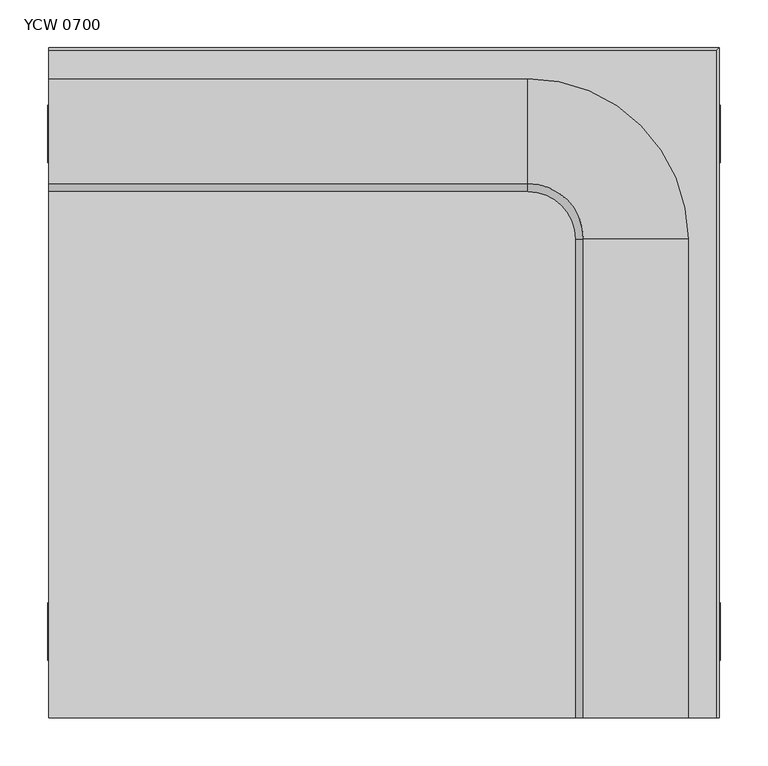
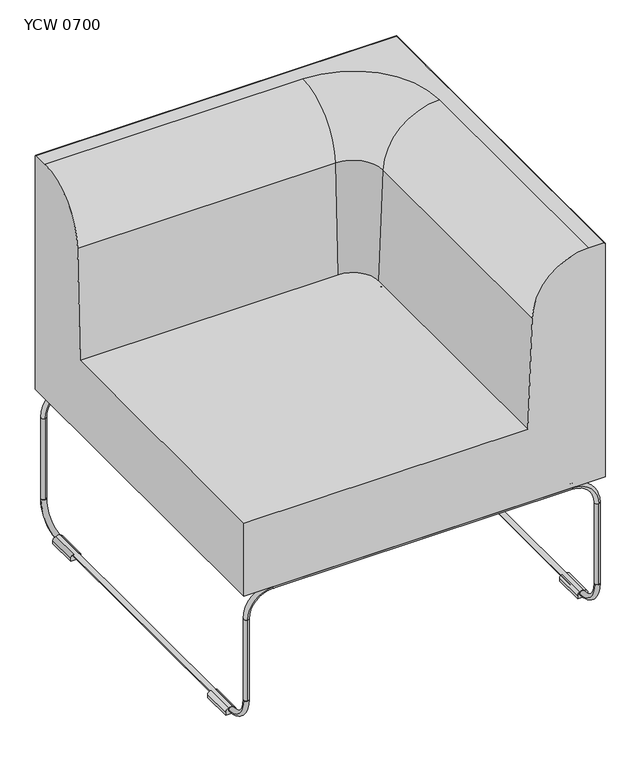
"""IFC4 building model written with IfcOpenShell, lengths in millimetres: furniture geometry, Mobiliário_Mobiliário de Escritório_LinhaYoung_Sofa Canto (Aramado) - YCW_Marelli : YCW 0700."""

import ifcopenshell
import ifcopenshell.guid

model = None  # the IFC model being written
_history = None  # IfcOwnerHistory: only IFC2X3 demands one
_inside = {}  # id of a spatial element -> (the spatial element, [elements in it])
_under = {}  # id of a project, library or spatial element -> (it, [spatial elements below it])
_declared = {}  # id of a project -> (the project, [libraries it declares])
_typed = {}  # id of a type object -> (the type object, [elements of that type])
_made_of = {}  # id of a material, layer set ... -> (it, [elements and type objects made of it])


def new_model(schema):
    """Start an empty IFC model of exactly this schema.

    Asked for "IFC4X3", IfcOpenShell would pick the latest addendum, in which some entities
    have other attributes; the version numbers below select the first issue.
    IFC2X3 requires an IfcOwnerHistory on every rooted entity: one is made here for all.
    """
    global model, _history
    if schema == "IFC4X3":
        model = ifcopenshell.file(schema_version=(4, 3, 0, 0))
    else:
        model = ifcopenshell.file(schema=schema)
    _inside.clear()
    _under.clear()
    _declared.clear()
    _typed.clear()
    _made_of.clear()
    _history = None
    if model.schema == "IFC2X3":
        org = make("IfcOrganization", Name="unknown")
        user = make(
            "IfcPersonAndOrganization",
            ThePerson=make("IfcPerson", FamilyName="unknown"),
            TheOrganization=org,
        )
        app = make(
            "IfcApplication",
            ApplicationDeveloper=org,
            Version="unknown",
            ApplicationFullName="unknown",
            ApplicationIdentifier="unknown",
        )
        _history = make(
            "IfcOwnerHistory",
            OwningUser=user,
            OwningApplication=app,
            ChangeAction="ADDED",
            CreationDate=0,
        )
    return model


def make(cls, **values):
    """One entity of the class cls with the attributes given. An attribute that is None is left unset."""
    return model.create_entity(
        cls, **{name: value for name, value in values.items() if value is not None}
    )


def rooted(cls, **values):
    """An entity with a GlobalId (a new one), such as an element, a storey or a relation."""
    return make(cls, GlobalId=ifcopenshell.guid.new(), OwnerHistory=_history, **values)


def si_unit(unit_type, name, prefix=None):
    """IfcSIUnit, for example si_unit("LENGTHUNIT", "METRE", prefix="MILLI")."""
    return make("IfcSIUnit", UnitType=unit_type, Prefix=prefix, Name=name)


def assignment(units):
    """IfcUnitAssignment: the units of a project."""
    return None if units is None else make("IfcUnitAssignment", Units=units)


def point(xyz):
    """IfcCartesianPoint."""
    return None if xyz is None else make("IfcCartesianPoint", Coordinates=xyz)


def direction(xyz):
    """IfcDirection."""
    return None if xyz is None else make("IfcDirection", DirectionRatios=xyz)


def frame(location, z_axis=None, x_axis=None):
    """IfcAxis2Placement3D, a coordinate frame: its origin and axes. An axis left out is left unset."""
    return make(
        "IfcAxis2Placement3D",
        Location=point(location),
        Axis=direction(z_axis),
        RefDirection=direction(x_axis),
    )


def frame_2d(location, x_axis=None):
    """IfcAxis2Placement2D, a coordinate frame in the plane: its origin and x axis."""
    return make(
        "IfcAxis2Placement2D", Location=point(location), RefDirection=direction(x_axis)
    )


def origin():
    """The frame at (0, 0, 0) with its axes left unset."""
    return frame((0.0, 0.0, 0.0))


def place(relative_to, where):
    """IfcLocalPlacement: puts the frame where relative to a parent placement (None: the world)."""
    return make(
        "IfcLocalPlacement", PlacementRelTo=relative_to, RelativePlacement=where
    )


def context(
    kind, dimensions, precision=None, world=None, true_north=None, identifier=None
):
    """IfcGeometricRepresentationContext, for example the 3D "Model" context."""
    return make(
        "IfcGeometricRepresentationContext",
        ContextIdentifier=identifier,
        ContextType=kind,
        CoordinateSpaceDimension=dimensions,
        Precision=precision,
        WorldCoordinateSystem=world,
        TrueNorth=true_north,
    )


def project(units=None, contexts=None):
    """IfcProject with its units and contexts."""
    return rooted(
        "IfcProject",
        Name="project",
        RepresentationContexts=contexts,
        UnitsInContext=assignment(units),
    )


def spatial(cls, under=None, at=None, **own):
    """A site, building, storey or space (cls), placed at a placement, below another one or the project."""
    s = rooted(cls, ObjectPlacement=at, **own)
    if under is not None:
        _under.setdefault(under.id(), (under, []))[1].append(s)
    return s


def polyline(points):
    """IfcPolyline through the points."""
    return make("IfcPolyline", Points=[point(p) for p in points])


def circle_curve(where, radius):
    """IfcCircle in the frame where."""
    return make("IfcCircle", Position=where, Radius=radius)


def ellipse_curve(where, semi_axis1, semi_axis2):
    """IfcEllipse in the frame where."""
    return make(
        "IfcEllipse", Position=where, SemiAxis1=semi_axis1, SemiAxis2=semi_axis2
    )


def trimmed(basis, trim1, trim2, sense, master):
    """IfcTrimmedCurve: the piece of a basis curve between two trims."""
    return make(
        "IfcTrimmedCurve",
        BasisCurve=basis,
        Trim1=trim1,
        Trim2=trim2,
        SenseAgreement=sense,
        MasterRepresentation=master,
    )


def segment(curve, same_sense, transition):
    """IfcCompositeCurveSegment."""
    return make(
        "IfcCompositeCurveSegment",
        Transition=transition,
        SameSense=same_sense,
        ParentCurve=curve,
    )


def composite_curve(segments, self_intersect=None):
    """IfcCompositeCurve: segments joined end to end."""
    return make("IfcCompositeCurve", Segments=segments, SelfIntersect=self_intersect)


def outline(outer, holes=None, kind="AREA"):
    """IfcArbitraryClosedProfileDef: a profile drawn as a closed curve; with holes, ...WithVoids."""
    if holes is None:
        return make("IfcArbitraryClosedProfileDef", ProfileType=kind, OuterCurve=outer)
    return make(
        "IfcArbitraryProfileDefWithVoids",
        ProfileType=kind,
        OuterCurve=outer,
        InnerCurves=holes,
    )


def extrude(swept, where, along, depth):
    """IfcExtrudedAreaSolid: the profile swept, set in the frame where, extruded along a direction by depth."""
    return make(
        "IfcExtrudedAreaSolid",
        SweptArea=swept,
        Position=where,
        ExtrudedDirection=direction(along),
        Depth=depth,
    )


def shape(context_of_items, identifier, shape_type, items):
    """IfcShapeRepresentation: the items that make up one representation, for example the "Body"."""
    return make(
        "IfcShapeRepresentation",
        ContextOfItems=context_of_items,
        RepresentationIdentifier=identifier,
        RepresentationType=shape_type,
        Items=items,
    )


def source(mapping_origin, context_of_items, identifier, shape_type, items):
    """IfcRepresentationMap: a shape defined once, which mapped items show again and again."""
    return make(
        "IfcRepresentationMap",
        MappingOrigin=mapping_origin,
        MappedRepresentation=shape(context_of_items, identifier, shape_type, items),
    )


def transform(
    local_origin,
    x_axis=None,
    y_axis=None,
    z_axis=None,
    scale=None,
    scale2=None,
    scale3=None,
    uniform=True,
):
    """IfcCartesianTransformationOperator3D, or its non-uniform kind. x_axis, y_axis, z_axis: its Axis1, 2, 3."""
    if uniform:
        return make(
            "IfcCartesianTransformationOperator3D",
            Axis1=direction(x_axis),
            Axis2=direction(y_axis),
            LocalOrigin=point(local_origin),
            Scale=scale,
            Axis3=direction(z_axis),
        )
    return make(
        "IfcCartesianTransformationOperator3DnonUniform",
        Axis1=direction(x_axis),
        Axis2=direction(y_axis),
        LocalOrigin=point(local_origin),
        Scale=scale,
        Axis3=direction(z_axis),
        Scale2=scale2,
        Scale3=scale3,
    )


def mapped(mapping_source, mapping_target):
    """IfcMappedItem: shows the shape of a source again, moved by a transform."""
    return make(
        "IfcMappedItem", MappingSource=mapping_source, MappingTarget=mapping_target
    )


def made_of(thing, what):
    """Note that an element or type object is made of a material, layer set ...; save() writes the relation."""
    if what is not None:
        _made_of.setdefault(what.id(), (what, []))[1].append(thing)
    return thing


def element(
    cls,
    number,
    at=None,
    inside=None,
    cuts=None,
    type_object=None,
    material=None,
    context=None,
    identifier="Body",
    shape_type=None,
    held_by="IfcProductDefinitionShape",
    body=None,
    shapes=None,
    **own,
):
    """One element of the class cls, such as IfcWall. Its Tag is "e" and its number.

    at: its placement. inside: the storey or other place that contains it. cuts: it is an
    opening in that element (IfcRelVoidsElement). A single representation is given by context,
    identifier, shape_type and body (its items); several are given by shapes. held_by: the class
    of the entity that holds the representations. save() writes the other relations.
    """
    e = rooted(cls, Tag="e%d" % number, ObjectPlacement=at, **own)
    if body is not None:
        shapes = [shape(context, identifier, shape_type, body)]
    if shapes is not None:
        e.Representation = make(held_by, Representations=shapes)
    if inside is not None:
        _inside.setdefault(inside.id(), (inside, []))[1].append(e)
    if cuts is not None:
        rooted(
            "IfcRelVoidsElement", RelatingBuildingElement=cuts, RelatedOpeningElement=e
        )
    if type_object is not None:
        _typed.setdefault(type_object.id(), (type_object, []))[1].append(e)
    return made_of(e, material)


def aggregate(whole, parts):
    """IfcRelAggregates: a whole, such as a stair, and the parts it consists of."""
    return rooted("IfcRelAggregates", RelatingObject=whole, RelatedObjects=parts)


def save(model, path):
    """Write the relations noted so far, then the file.

    IfcRelAggregates (storeys below a building ...), IfcRelContainedInSpatialStructure (elements
    in a storey), IfcRelDefinesByType, IfcRelAssociatesMaterial and IfcRelDeclares: one each for
    every whole, place, type object, material and project.
    """
    for whole, parts in _under.values():
        aggregate(whole, parts)
    for where, things in _inside.values():
        rooted(
            "IfcRelContainedInSpatialStructure",
            RelatedElements=things,
            RelatingStructure=where,
        )
    for kind, things in _typed.values():
        rooted("IfcRelDefinesByType", RelatedObjects=things, RelatingType=kind)
    for what, things in _made_of.values():
        rooted("IfcRelAssociatesMaterial", RelatedObjects=things, RelatingMaterial=what)
    for by, libraries in _declared.values():
        rooted("IfcRelDeclares", RelatingContext=by, RelatedDefinitions=libraries)
    model.write(path)


def plane_surface(at):
    """IfcPlane: the flat surface through the origin of the frame at, square to its z axis."""
    return make("IfcPlane", Position=at)


def cylinder_surface(at, radius):
    """IfcCylindricalSurface: all points at the distance radius from the z axis of the frame at."""
    return make("IfcCylindricalSurface", Position=at, Radius=radius)


def revolved_surface(curve, axis_point, axis_direction):
    """IfcSurfaceOfRevolution: the curve turned about the line through axis_point along axis_direction."""
    return make(
        "IfcSurfaceOfRevolution",
        SweptCurve=make("IfcArbitraryOpenProfileDef", ProfileType="CURVE", Curve=curve),
        AxisPosition=make("IfcAxis1Placement", Location=point(axis_point), Axis=direction(axis_direction)),
    )


def advanced_brep(points, edges, surfaces, faces):
    """IfcAdvancedBrep: a solid bounded by faces that lie on surfaces and meet in shared edges.

    An edge is (start, end): straight between two places in points (the first is 0);
    or (start, end, curve); or (start, end, curve, False) where it runs against its curve.
    A face is (place in surfaces, loops), or (place, loops, False) where it looks against
    its surface's normal. A loop lists edges by number (the first is 1), with a minus sign
    where the edge is run from its end to its start. The first loop is the outer one.
    """
    corners = [point(p) for p in points]
    vertices = [make("IfcVertexPoint", VertexGeometry=c) for c in corners]
    made = []
    for start, end, *more in edges:
        made.append(
            make(
                "IfcEdgeCurve",
                EdgeStart=vertices[start],
                EdgeEnd=vertices[end],
                EdgeGeometry=more[0] if more else make("IfcPolyline", Points=[corners[start], corners[end]]),
                SameSense=more[1] if len(more) > 1 else True,
            )
        )
    hull = []
    for where, loops, *sense in faces:
        bounds = []
        for j, loop in enumerate(loops):
            ring = [make("IfcOrientedEdge", EdgeElement=made[abs(k) - 1], Orientation=k > 0) for k in loop]
            bounds.append(
                make(
                    "IfcFaceOuterBound" if j == 0 else "IfcFaceBound",
                    Bound=make("IfcEdgeLoop", EdgeList=ring),
                    Orientation=True,
                )
            )
        hull.append(make("IfcAdvancedFace", Bounds=bounds, FaceSurface=surfaces[where], SameSense=sense[0] if sense else True))
    return make("IfcAdvancedBrep", Outer=make("IfcClosedShell", CfsFaces=hull))


def ycw_0700_7a8f78d2(model_context):
    return source(origin(), model_context, "Body", "SolidModel", [
        advanced_brep(
        [(0.0, 668.0, 760.0), (500.0, 668.0, 760.0), (668.0, 500.0, 760.0), (668.0, 0.0, 760.0), (696.9835797, 0.0, 760.0), (696.9835797, 696.9835797, 760.0), (0.0, 696.9835797, 760.0), (0.0, 700.0, 280.0), (700.0, 700.0, 280.0), (700.0, 0.0, 280.0), (0.0, 0.0, 280.0), (0.0, 700.0, 756.9835797), (700.0, 700.0, 756.9835797), (700.0, 0.0, 756.9835797), (558.2568376, 0.0, 654.223651), (550.0, 0.0, 430.0), (0.0, 0.0, 430.0), (558.2568376, 500.0, 654.223651), (550.0, 500.0, 430.0), (500.0, 558.2568376, 654.223651), (500.0, 550.0, 430.0), (0.0, 550.0, 430.0), (0.0, 558.2568376, 654.223651)],
        [
            (0, 1),
            (1, 2, circle_curve(frame((500.0, 500.0, 760.0), z_axis=(0.0, 0.0, -1.0), x_axis=(1.0, 0.0, 0.0)), 168.0)),
            (2, 3),
            (3, 4),
            (4, 5),
            (5, 6),
            (6, 0),
            (7, 8),
            (8, 9),
            (9, 10),
            (10, 7),
            (7, 11),
            (11, 12),
            (12, 8),
            (12, 13),
            (13, 9),
            (3, 14, circle_curve(frame((668.0, 0.0, 650.1824561), z_axis=(0.0, -1.0, 0.0), x_axis=(1.0, 0.0, 0.0)), 109.8175439)),
            (14, 15),
            (15, 16),
            (16, 10),
            (13, 4, circle_curve(frame((696.9835797, 0.0, 756.9835797), z_axis=(0.0, -1.0, 0.0), x_axis=(1.0, 0.0, 0.0)), 3.0164203)),
            (2, 17, circle_curve(frame((668.0, 500.0, 650.1824561), z_axis=(0.0, -1.0, 0.0), x_axis=(1.0, 0.0, 0.0)), 109.8175439)),
            (17, 14),
            (17, 18),
            (18, 15),
            (1, 19, circle_curve(frame((500.0, 668.0, 650.1824561), z_axis=(1.0, 0.0, 0.0), x_axis=(0.0, 1.0, 0.0)), 109.8175439)),
            (19, 17, circle_curve(frame((500.0, 500.0, 654.223651), z_axis=(0.0, 0.0, -1.0), x_axis=(1.0, 0.0, 0.0)), 58.2568376)),
            (19, 20),
            (20, 18, circle_curve(frame((500.0, 500.0, 430.0), z_axis=(0.0, 0.0, -1.0), x_axis=(1.0, 0.0, 0.0)), 50.0)),
            (16, 21),
            (21, 22),
            (22, 0, circle_curve(frame((0.0, 668.0, 650.1824561), z_axis=(-1.0, 0.0, 0.0), x_axis=(0.0, 1.0, 0.0)), 109.8175439)),
            (6, 11, circle_curve(frame((0.0, 696.9835797, 756.9835797), z_axis=(-1.0, 0.0, 0.0), x_axis=(0.0, 1.0, 0.0)), 3.0164203)),
            (22, 19),
            (21, 20),
            (12, 5, ellipse_curve(frame((696.9835797, 696.9835797, 756.9835797), z_axis=(0.7071067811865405, -0.7071067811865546, 0.0), x_axis=(0.7071067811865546, 0.7071067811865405, 0.0)), 4.2658626, 3.0164203)),
        ],
        [
            plane_surface(frame((500.0, 700.0, 760.0), z_axis=(0.0, 0.0, 1.0), x_axis=(-1.0, 0.0, 0.0))),
            plane_surface(frame((500.0, 700.0, 280.0), z_axis=(0.0, 0.0, -1.0), x_axis=(1.0, 0.0, 0.0))),
            plane_surface(frame((700.0, 700.0, 760.0), z_axis=(0.0, 1.0, 0.0), x_axis=(0.0, 0.0, -1.0))),
            plane_surface(frame((700.0, 500.0, 760.0), z_axis=(1.0, 0.0, 0.0), x_axis=(0.0, 0.0, -1.0))),
            plane_surface(frame((550.0, 0.0, 0.0), z_axis=(0.0, -1.0, 0.0), x_axis=(0.0, 0.0, 1.0))),
            cylinder_surface(frame((668.0, 0.0, 650.1824561), z_axis=(0.0, -1.0, 0.0), x_axis=(1.0, 0.0, 0.0)), 109.8175439),
            plane_surface(frame((558.2568376, 0.0, 654.223651), z_axis=(-0.9993226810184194, 0.0, 0.036799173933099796), x_axis=(0.0, 1.0, 0.0))),
            revolved_surface(trimmed(ellipse_curve(frame((668.0, 500.0, 650.1824561), z_axis=(0.0, -1.0, 0.0), x_axis=(1.0, 0.0, 0.0)), 109.8175439, 109.8175439), [point((668.0, 500.0, 760.0))], [point((558.2568376, 500.0, 654.223651))], True, "CARTESIAN"), (500.0, 500.0, 0.0), (0.0, 0.0, 1.0)),
            revolved_surface(polyline([(558.2568376, 500.0, 654.223651), (550.0, 500.0, 430.0)]), (500.0, 500.0, 0.0), (0.0, 0.0, 1.0)),
            plane_surface(frame((0.0, 550.0, 0.0), z_axis=(-1.0, 0.0, 0.0), x_axis=(0.0, 0.0, 1.0))),
            cylinder_surface(frame((500.0, 668.0, 650.1824561), z_axis=(1.0, 0.0, 0.0), x_axis=(0.0, 1.0, 0.0)), 109.8175439),
            plane_surface(frame((500.0, 558.2568376, 654.223651), z_axis=(0.0, -0.9993226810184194, 0.036799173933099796), x_axis=(-1.0, 0.0, 0.0))),
            cylinder_surface(frame((696.9835797, 700.0, 756.9835797), z_axis=(0.0, 1.0, 0.0), x_axis=(1.0, 0.0, 0.0)), 3.0164203),
            cylinder_surface(frame((700.0, 696.9835797, 756.9835797), z_axis=(1.0, 0.0, 0.0), x_axis=(0.0, 1.0, 0.0)), 3.0164203),
            plane_surface(frame((0.0, 550.0, 430.0), z_axis=(0.0, 0.0, 1.0), x_axis=(-1.0, 0.0, 0.0))),
        ],
        [
            (0, [[1, 2, 3, 4, 5, 6, 7]]),
            (1, [[8, 9, 10, 11]]),
            (2, [[-8, 12, 13, 14]]),
            (3, [[-9, -14, 15, 16]]),
            (4, [[17, 18, 19, 20, -10, -16, 21, -4]]),
            (5, [[-17, -3, 22, 23]]),
            (6, [[-18, -23, 24, 25]]),
            (7, [[-2, 26, 27, -22]]),
            (8, [[-24, -27, 28, 29]]),
            (9, [[-11, -20, 30, 31, 32, -7, 33, -12]]),
            (10, [[-1, -32, 34, -26]]),
            (11, [[-28, -34, -31, 35]]),
            (12, [[-15, 36, -5, -21]]),
            (13, [[-6, -36, -13, -33]]),
            (14, [[-30, -19, -25, -29, -35]]),
        ],
    ),
        extrude(outline(composite_curve([segment(trimmed(circle_curve(frame_2d((9.0, 10.0)), 5.0), [point((9.0, 5.0))], [point((9.0, 15.0))], False, "CARTESIAN"), True, "CONTINUOUS"), segment(trimmed(circle_curve(frame_2d((9.0, 10.0)), 5.0), [point((9.0, 15.0))], [point((9.0, 5.0))], False, "CARTESIAN"), True, "CONTINUOUS")], self_intersect=False)), frame((0.0, 60.0, 0.0), z_axis=(0.0, 1.0, 0.0), x_axis=(0.0, 0.0, 1.0)), (0.0, 0.0, 1.0), 580.0),
        extrude(outline(composite_curve([segment(trimmed(circle_curve(frame_2d((9.0, 690.0)), 5.0), [point((9.0, 695.0))], [point((9.0, 685.0))], False, "CARTESIAN"), True, "CONTINUOUS"), segment(trimmed(circle_curve(frame_2d((9.0, 690.0)), 5.0), [point((9.0, 685.0))], [point((9.0, 695.0))], False, "CARTESIAN"), True, "CONTINUOUS")], self_intersect=False)), frame((0.0, 60.0, 0.0), z_axis=(0.0, 1.0, 0.0), x_axis=(0.0, 0.0, 1.0)), (0.0, 0.0, 1.0), 580.0),
        extrude(outline(composite_curve([segment(trimmed(circle_curve(frame_2d((10.0, 275.0)), 5.0), [point((5.0, 275.0))], [point((15.0, 275.0))], False, "CARTESIAN"), True, "CONTINUOUS"), segment(trimmed(circle_curve(frame_2d((10.0, 275.0)), 5.0), [point((15.0, 275.0))], [point((5.0, 275.0))], False, "CARTESIAN"), True, "CONTINUOUS")], self_intersect=False)), frame((60.0, 0.0, 0.0), z_axis=(1.0, 0.0, 0.0), x_axis=(0.0, 1.0, 0.0)), (0.0, 0.0, 1.0), 580.0),
        extrude(outline(composite_curve([segment(trimmed(circle_curve(frame_2d((690.0, 275.0)), 5.0), [point((695.0, 275.0))], [point((685.0, 275.0))], False, "CARTESIAN"), True, "CONTINUOUS"), segment(trimmed(circle_curve(frame_2d((690.0, 275.0)), 5.0), [point((685.0, 275.0))], [point((695.0, 275.0))], False, "CARTESIAN"), True, "CONTINUOUS")], self_intersect=False)), frame((60.0, 0.0, 0.0), z_axis=(1.0, 0.0, 0.0), x_axis=(0.0, 1.0, 0.0)), (0.0, 0.0, 1.0), 580.0),
        advanced_brep(
        [(10.0, 15.0, 225.0), (10.0, 5.0, 225.0), (60.0, 15.0, 275.0), (60.0, 5.0, 275.0)],
        [
            (0, 1, circle_curve(frame((10.0, 10.0, 225.0), z_axis=(0.0, 0.0, -1.0), x_axis=(0.0, -1.0, 0.0)), 5.0)),
            (1, 0, circle_curve(frame((10.0, 10.0, 225.0), z_axis=(0.0, 0.0, -1.0), x_axis=(0.0, -1.0, 0.0)), 5.0)),
            (2, 3, circle_curve(frame((60.0, 10.0, 275.0), z_axis=(1.0, 0.0, 0.0), x_axis=(0.0, -1.0, 0.0)), 5.0)),
            (3, 2, circle_curve(frame((60.0, 10.0, 275.0), z_axis=(1.0, 0.0, 0.0), x_axis=(0.0, -1.0, 0.0)), 5.0)),
            (3, 1, circle_curve(frame((60.0, 5.0, 225.0), z_axis=(0.0, -1.0, 0.0), x_axis=(-1.0, 0.0, 0.0)), 50.0)),
            (0, 2, circle_curve(frame((60.0, 15.0, 225.0), z_axis=(0.0, 1.0, 0.0), x_axis=(-1.0, 0.0, 0.0)), 50.0)),
        ],
        [
            plane_surface(frame((10.0, 0.0, 225.0), z_axis=(0.0, 0.0, -1.0), x_axis=(0.0, -1.0, 0.0))),
            plane_surface(frame((60.0, 0.0, 275.0), z_axis=(1.0, 0.0, 0.0), x_axis=(0.0, -1.0, 0.0))),
            revolved_surface(trimmed(ellipse_curve(frame((10.0, 10.0, 225.0), z_axis=(0.0, 0.0, -1.0), x_axis=(0.0, -1.0, 0.0)), 5.0, 5.0), [point((10.0, 15.0, 225.0))], [point((10.0, 5.0, 225.0))], True, "CARTESIAN"), (60.0, 0.0, 225.0), (0.0, 1.0, 0.0)),
            revolved_surface(trimmed(ellipse_curve(frame((10.0, 10.0, 225.0), z_axis=(0.0, 0.0, -1.0), x_axis=(0.0, -1.0, 0.0)), 5.0, 5.0), [point((10.0, 5.0, 225.0))], [point((10.0, 15.0, 225.0))], True, "CARTESIAN"), (60.0, 0.0, 225.0), (0.0, 1.0, 0.0)),
        ],
        [
            (0, [[1, 2]]),
            (1, [[3, 4]]),
            (2, [[5, -1, 6, -4]]),
            (3, [[-6, -2, -5, -3]]),
        ],
    ),
        advanced_brep(
        [(690.0, 15.0, 225.0), (690.0, 5.0, 225.0), (640.0, 15.0, 275.0), (640.0, 5.0, 275.0)],
        [
            (0, 1, circle_curve(frame((690.0, 10.0, 225.0), z_axis=(0.0, 0.0, -1.0), x_axis=(0.0, -1.0, 0.0)), 5.0)),
            (1, 0, circle_curve(frame((690.0, 10.0, 225.0), z_axis=(0.0, 0.0, -1.0), x_axis=(0.0, -1.0, 0.0)), 5.0)),
            (2, 3, circle_curve(frame((640.0, 10.0, 275.0), z_axis=(-1.0, 0.0, 0.0), x_axis=(0.0, -1.0, 0.0)), 5.0)),
            (3, 2, circle_curve(frame((640.0, 10.0, 275.0), z_axis=(-1.0, 0.0, 0.0), x_axis=(0.0, -1.0, 0.0)), 5.0)),
            (2, 0, circle_curve(frame((640.0, 15.0, 225.0), z_axis=(0.0, 1.0, 0.0), x_axis=(1.0, 0.0, 0.0)), 50.0)),
            (1, 3, circle_curve(frame((640.0, 5.0, 225.0), z_axis=(0.0, -1.0, 0.0), x_axis=(1.0, 0.0, 0.0)), 50.0)),
        ],
        [
            plane_surface(frame((690.0, 0.0, 225.0), z_axis=(0.0, 0.0, -1.0), x_axis=(0.0, -1.0, 0.0))),
            plane_surface(frame((640.0, 0.0, 275.0), z_axis=(-1.0, 0.0, 0.0), x_axis=(0.0, -1.0, 0.0))),
            revolved_surface(trimmed(ellipse_curve(frame((690.0, 10.0, 225.0), z_axis=(0.0, 0.0, -1.0), x_axis=(0.0, -1.0, 0.0)), 5.0, 5.0), [point((690.0, 5.0, 225.0))], [point((690.0, 15.0, 225.0))], True, "CARTESIAN"), (640.0, 0.0, 225.0), (0.0, -1.0, 0.0)),
            revolved_surface(trimmed(ellipse_curve(frame((690.0, 10.0, 225.0), z_axis=(0.0, 0.0, -1.0), x_axis=(0.0, -1.0, 0.0)), 5.0, 5.0), [point((690.0, 15.0, 225.0))], [point((690.0, 5.0, 225.0))], True, "CARTESIAN"), (640.0, 0.0, 225.0), (0.0, -1.0, 0.0)),
        ],
        [
            (0, [[1, 2]]),
            (1, [[3, 4]]),
            (2, [[5, -2, 6, -3]]),
            (3, [[-6, -1, -5, -4]]),
        ],
    ),
        advanced_brep(
        [(10.0, 685.0, 225.0), (10.0, 695.0, 225.0), (60.0, 685.0, 275.0), (60.0, 695.0, 275.0)],
        [
            (0, 1, circle_curve(frame((10.0, 690.0, 225.0), z_axis=(0.0, 0.0, -1.0), x_axis=(0.0, 1.0, 0.0)), 5.0)),
            (1, 0, circle_curve(frame((10.0, 690.0, 225.0), z_axis=(0.0, 0.0, -1.0), x_axis=(0.0, 1.0, 0.0)), 5.0)),
            (2, 3, circle_curve(frame((60.0, 690.0, 275.0), z_axis=(1.0, 0.0, 0.0), x_axis=(0.0, 1.0, 0.0)), 5.0)),
            (3, 2, circle_curve(frame((60.0, 690.0, 275.0), z_axis=(1.0, 0.0, 0.0), x_axis=(0.0, 1.0, 0.0)), 5.0)),
            (2, 0, circle_curve(frame((60.0, 685.0, 225.0), z_axis=(0.0, -1.0, 0.0), x_axis=(-1.0, 0.0, 0.0)), 50.0)),
            (1, 3, circle_curve(frame((60.0, 695.0, 225.0), z_axis=(0.0, 1.0, 0.0), x_axis=(-1.0, 0.0, 0.0)), 50.0)),
        ],
        [
            plane_surface(frame((10.0, 700.0, 225.0), z_axis=(0.0, 0.0, -1.0), x_axis=(0.0, 1.0, 0.0))),
            plane_surface(frame((60.0, 700.0, 275.0), z_axis=(1.0, 0.0, 0.0), x_axis=(0.0, 1.0, 0.0))),
            revolved_surface(trimmed(ellipse_curve(frame((10.0, 690.0, 225.0), z_axis=(0.0, 0.0, -1.0), x_axis=(0.0, 1.0, 0.0)), 5.0, 5.0), [point((10.0, 695.0, 225.0))], [point((10.0, 685.0, 225.0))], True, "CARTESIAN"), (60.0, 700.0, 225.0), (0.0, 1.0, 0.0)),
            revolved_surface(trimmed(ellipse_curve(frame((10.0, 690.0, 225.0), z_axis=(0.0, 0.0, -1.0), x_axis=(0.0, 1.0, 0.0)), 5.0, 5.0), [point((10.0, 685.0, 225.0))], [point((10.0, 695.0, 225.0))], True, "CARTESIAN"), (60.0, 700.0, 225.0), (0.0, 1.0, 0.0)),
        ],
        [
            (0, [[1, 2]]),
            (1, [[3, 4]]),
            (2, [[5, -2, 6, -3]]),
            (3, [[-6, -1, -5, -4]]),
        ],
    ),
        advanced_brep(
        [(690.0, 685.0, 225.0), (690.0, 695.0, 225.0), (640.0, 685.0, 275.0), (640.0, 695.0, 275.0)],
        [
            (0, 1, circle_curve(frame((690.0, 690.0, 225.0), z_axis=(0.0, 0.0, -1.0), x_axis=(0.0, 1.0, 0.0)), 5.0)),
            (1, 0, circle_curve(frame((690.0, 690.0, 225.0), z_axis=(0.0, 0.0, -1.0), x_axis=(0.0, 1.0, 0.0)), 5.0)),
            (2, 3, circle_curve(frame((640.0, 690.0, 275.0), z_axis=(-1.0, 0.0, 0.0), x_axis=(0.0, 1.0, 0.0)), 5.0)),
            (3, 2, circle_curve(frame((640.0, 690.0, 275.0), z_axis=(-1.0, 0.0, 0.0), x_axis=(0.0, 1.0, 0.0)), 5.0)),
            (3, 1, circle_curve(frame((640.0, 695.0, 225.0), z_axis=(0.0, 1.0, 0.0), x_axis=(1.0, 0.0, 0.0)), 50.0)),
            (0, 2, circle_curve(frame((640.0, 685.0, 225.0), z_axis=(0.0, -1.0, 0.0), x_axis=(1.0, 0.0, 0.0)), 50.0)),
        ],
        [
            plane_surface(frame((690.0, 700.0, 225.0), z_axis=(0.0, 0.0, -1.0), x_axis=(0.0, 1.0, 0.0))),
            plane_surface(frame((640.0, 700.0, 275.0), z_axis=(-1.0, 0.0, 0.0), x_axis=(0.0, 1.0, 0.0))),
            revolved_surface(trimmed(ellipse_curve(frame((690.0, 690.0, 225.0), z_axis=(0.0, 0.0, -1.0), x_axis=(0.0, 1.0, 0.0)), 5.0, 5.0), [point((690.0, 685.0, 225.0))], [point((690.0, 695.0, 225.0))], True, "CARTESIAN"), (640.0, 700.0, 225.0), (0.0, -1.0, 0.0)),
            revolved_surface(trimmed(ellipse_curve(frame((690.0, 690.0, 225.0), z_axis=(0.0, 0.0, -1.0), x_axis=(0.0, 1.0, 0.0)), 5.0, 5.0), [point((690.0, 695.0, 225.0))], [point((690.0, 685.0, 225.0))], True, "CARTESIAN"), (640.0, 700.0, 225.0), (0.0, -1.0, 0.0)),
        ],
        [
            (0, [[1, 2]]),
            (1, [[3, 4]]),
            (2, [[5, -1, 6, -4]]),
            (3, [[-6, -2, -5, -3]]),
        ],
    ),
        advanced_brep(
        [(695.0, 690.0, 59.0), (685.0, 690.0, 59.0), (695.0, 640.0, 9.0), (685.0, 640.0, 9.0)],
        [
            (0, 1, circle_curve(frame((690.0, 690.0, 59.0), z_axis=(0.0, 0.0, 1.0), x_axis=(-1.0, 0.0, 0.0)), 5.0)),
            (1, 0, circle_curve(frame((690.0, 690.0, 59.0), z_axis=(0.0, 0.0, 1.0), x_axis=(-1.0, 0.0, 0.0)), 5.0)),
            (2, 3, circle_curve(frame((690.0, 640.0, 9.0), z_axis=(0.0, -1.0, 0.0), x_axis=(-1.0, 0.0, 0.0)), 5.0)),
            (3, 2, circle_curve(frame((690.0, 640.0, 9.0), z_axis=(0.0, -1.0, 0.0), x_axis=(-1.0, 0.0, 0.0)), 5.0)),
            (2, 0, circle_curve(frame((695.0, 640.0, 59.0), z_axis=(1.0, 0.0, 0.0), x_axis=(0.0, 1.0, 0.0)), 50.0)),
            (1, 3, circle_curve(frame((685.0, 640.0, 59.0), z_axis=(-1.0, 0.0, 0.0), x_axis=(0.0, 1.0, 0.0)), 50.0)),
        ],
        [
            plane_surface(frame((680.0, 690.0, 59.0), z_axis=(0.0, 0.0, 1.0), x_axis=(-1.0, 0.0, 0.0))),
            plane_surface(frame((680.0, 640.0, 9.0), z_axis=(0.0, -1.0, 0.0), x_axis=(-1.0, 0.0, 0.0))),
            revolved_surface(trimmed(ellipse_curve(frame((690.0, 690.0, 59.0), z_axis=(0.0, 0.0, 1.0), x_axis=(-1.0, 0.0, 0.0)), 5.0, 5.0), [point((685.0, 690.0, 59.0))], [point((695.0, 690.0, 59.0))], True, "CARTESIAN"), (680.0, 640.0, 59.0), (-1.0, 0.0, 0.0)),
            revolved_surface(trimmed(ellipse_curve(frame((690.0, 690.0, 59.0), z_axis=(0.0, 0.0, 1.0), x_axis=(-1.0, 0.0, 0.0)), 5.0, 5.0), [point((695.0, 690.0, 59.0))], [point((685.0, 690.0, 59.0))], True, "CARTESIAN"), (680.0, 640.0, 59.0), (-1.0, 0.0, 0.0)),
        ],
        [
            (0, [[1, 2]]),
            (1, [[3, 4]]),
            (2, [[5, -2, 6, -3]]),
            (3, [[-6, -1, -5, -4]]),
        ],
    ),
        advanced_brep(
        [(5.0, 690.0, 59.0), (15.0, 690.0, 59.0), (5.0, 640.0, 9.0), (15.0, 640.0, 9.0)],
        [
            (0, 1, circle_curve(frame((10.0, 690.0, 59.0), z_axis=(0.0, 0.0, 1.0), x_axis=(1.0, 0.0, 0.0)), 5.0)),
            (1, 0, circle_curve(frame((10.0, 690.0, 59.0), z_axis=(0.0, 0.0, 1.0), x_axis=(1.0, 0.0, 0.0)), 5.0)),
            (2, 3, circle_curve(frame((10.0, 640.0, 9.0), z_axis=(0.0, -1.0, 0.0), x_axis=(1.0, 0.0, 0.0)), 5.0)),
            (3, 2, circle_curve(frame((10.0, 640.0, 9.0), z_axis=(0.0, -1.0, 0.0), x_axis=(1.0, 0.0, 0.0)), 5.0)),
            (3, 1, circle_curve(frame((15.0, 640.0, 59.0), z_axis=(1.0, 0.0, 0.0), x_axis=(0.0, 1.0, 0.0)), 50.0)),
            (0, 2, circle_curve(frame((5.0, 640.0, 59.0), z_axis=(-1.0, 0.0, 0.0), x_axis=(0.0, 1.0, 0.0)), 50.0)),
        ],
        [
            plane_surface(frame((20.0, 690.0, 59.0), z_axis=(0.0, 0.0, 1.0), x_axis=(1.0, 0.0, 0.0))),
            plane_surface(frame((20.0, 640.0, 9.0), z_axis=(0.0, -1.0, 0.0), x_axis=(1.0, 0.0, 0.0))),
            revolved_surface(trimmed(ellipse_curve(frame((10.0, 690.0, 59.0), z_axis=(0.0, 0.0, 1.0), x_axis=(1.0, 0.0, 0.0)), 5.0, 5.0), [point((5.0, 690.0, 59.0))], [point((15.0, 690.0, 59.0))], True, "CARTESIAN"), (20.0, 640.0, 59.0), (-1.0, 0.0, 0.0)),
            revolved_surface(trimmed(ellipse_curve(frame((10.0, 690.0, 59.0), z_axis=(0.0, 0.0, 1.0), x_axis=(1.0, 0.0, 0.0)), 5.0, 5.0), [point((15.0, 690.0, 59.0))], [point((5.0, 690.0, 59.0))], True, "CARTESIAN"), (20.0, 640.0, 59.0), (-1.0, 0.0, 0.0)),
        ],
        [
            (0, [[1, 2]]),
            (1, [[3, 4]]),
            (2, [[5, -1, 6, -4]]),
            (3, [[-6, -2, -5, -3]]),
        ],
    ),
        advanced_brep(
        [(695.0, 10.0, 59.0), (685.0, 10.0, 59.0), (695.0, 60.0, 9.0), (685.0, 60.0, 9.0)],
        [
            (0, 1, circle_curve(frame((690.0, 10.0, 59.0), z_axis=(0.0, 0.0, 1.0), x_axis=(-1.0, 0.0, 0.0)), 5.0)),
            (1, 0, circle_curve(frame((690.0, 10.0, 59.0), z_axis=(0.0, 0.0, 1.0), x_axis=(-1.0, 0.0, 0.0)), 5.0)),
            (2, 3, circle_curve(frame((690.0, 60.0, 9.0), z_axis=(0.0, 1.0, 0.0), x_axis=(-1.0, 0.0, 0.0)), 5.0)),
            (3, 2, circle_curve(frame((690.0, 60.0, 9.0), z_axis=(0.0, 1.0, 0.0), x_axis=(-1.0, 0.0, 0.0)), 5.0)),
            (3, 1, circle_curve(frame((685.0, 60.0, 59.0), z_axis=(-1.0, 0.0, 0.0), x_axis=(0.0, -1.0, 0.0)), 50.0)),
            (0, 2, circle_curve(frame((695.0, 60.0, 59.0), z_axis=(1.0, 0.0, 0.0), x_axis=(0.0, -1.0, 0.0)), 50.0)),
        ],
        [
            plane_surface(frame((680.0, 10.0, 59.0), z_axis=(0.0, 0.0, 1.0), x_axis=(-1.0, 0.0, 0.0))),
            plane_surface(frame((680.0, 60.0, 9.0), z_axis=(0.0, 1.0, 0.0), x_axis=(-1.0, 0.0, 0.0))),
            revolved_surface(trimmed(ellipse_curve(frame((690.0, 10.0, 59.0), z_axis=(0.0, 0.0, 1.0), x_axis=(-1.0, 0.0, 0.0)), 5.0, 5.0), [point((695.0, 10.0, 59.0))], [point((685.0, 10.0, 59.0))], True, "CARTESIAN"), (680.0, 60.0, 59.0), (1.0, 0.0, 0.0)),
            revolved_surface(trimmed(ellipse_curve(frame((690.0, 10.0, 59.0), z_axis=(0.0, 0.0, 1.0), x_axis=(-1.0, 0.0, 0.0)), 5.0, 5.0), [point((685.0, 10.0, 59.0))], [point((695.0, 10.0, 59.0))], True, "CARTESIAN"), (680.0, 60.0, 59.0), (1.0, 0.0, 0.0)),
        ],
        [
            (0, [[1, 2]]),
            (1, [[3, 4]]),
            (2, [[5, -1, 6, -4]]),
            (3, [[-6, -2, -5, -3]]),
        ],
    ),
        advanced_brep(
        [(5.0, 10.0, 59.0), (15.0, 10.0, 59.0), (5.0, 60.0, 9.0), (15.0, 60.0, 9.0)],
        [
            (0, 1, circle_curve(frame((10.0, 10.0, 59.0), z_axis=(0.0, 0.0, 1.0), x_axis=(1.0, 0.0, 0.0)), 5.0)),
            (1, 0, circle_curve(frame((10.0, 10.0, 59.0), z_axis=(0.0, 0.0, 1.0), x_axis=(1.0, 0.0, 0.0)), 5.0)),
            (2, 3, circle_curve(frame((10.0, 60.0, 9.0), z_axis=(0.0, 1.0, 0.0), x_axis=(1.0, 0.0, 0.0)), 5.0)),
            (3, 2, circle_curve(frame((10.0, 60.0, 9.0), z_axis=(0.0, 1.0, 0.0), x_axis=(1.0, 0.0, 0.0)), 5.0)),
            (2, 0, circle_curve(frame((5.0, 60.0, 59.0), z_axis=(-1.0, 0.0, 0.0), x_axis=(0.0, -1.0, 0.0)), 50.0)),
            (1, 3, circle_curve(frame((15.0, 60.0, 59.0), z_axis=(1.0, 0.0, 0.0), x_axis=(0.0, -1.0, 0.0)), 50.0)),
        ],
        [
            plane_surface(frame((20.0, 10.0, 59.0), z_axis=(0.0, 0.0, 1.0), x_axis=(1.0, 0.0, 0.0))),
            plane_surface(frame((20.0, 60.0, 9.0), z_axis=(0.0, 1.0, 0.0), x_axis=(1.0, 0.0, 0.0))),
            revolved_surface(trimmed(ellipse_curve(frame((10.0, 10.0, 59.0), z_axis=(0.0, 0.0, 1.0), x_axis=(1.0, 0.0, 0.0)), 5.0, 5.0), [point((15.0, 10.0, 59.0))], [point((5.0, 10.0, 59.0))], True, "CARTESIAN"), (20.0, 60.0, 59.0), (1.0, 0.0, 0.0)),
            revolved_surface(trimmed(ellipse_curve(frame((10.0, 10.0, 59.0), z_axis=(0.0, 0.0, 1.0), x_axis=(1.0, 0.0, 0.0)), 5.0, 5.0), [point((5.0, 10.0, 59.0))], [point((15.0, 10.0, 59.0))], True, "CARTESIAN"), (20.0, 60.0, 59.0), (1.0, 0.0, 0.0)),
        ],
        [
            (0, [[1, 2]]),
            (1, [[3, 4]]),
            (2, [[5, -2, 6, -3]]),
            (3, [[-6, -1, -5, -4]]),
        ],
    ),
        extrude(outline(composite_curve([segment(trimmed(circle_curve(frame_2d((275.0, 75.0)), 5.0), [point((275.0, 70.0))], [point((275.0, 80.0))], False, "CARTESIAN"), True, "CONTINUOUS"), segment(trimmed(circle_curve(frame_2d((275.0, 75.0)), 5.0), [point((275.0, 80.0))], [point((275.0, 70.0))], False, "CARTESIAN"), True, "CONTINUOUS")], self_intersect=False)), frame((0.0, 10.0, 0.0), z_axis=(0.0, 1.0, 0.0), x_axis=(0.0, 0.0, 1.0)), (0.0, 0.0, 1.0), 680.0),
        extrude(outline(composite_curve([segment(trimmed(circle_curve(frame_2d((275.0, 625.0)), 5.0), [point((275.0, 630.0))], [point((275.0, 620.0))], False, "CARTESIAN"), True, "CONTINUOUS"), segment(trimmed(circle_curve(frame_2d((275.0, 625.0)), 5.0), [point((275.0, 620.0))], [point((275.0, 630.0))], False, "CARTESIAN"), True, "CONTINUOUS")], self_intersect=False)), frame((0.0, 10.0, 0.0), z_axis=(0.0, 1.0, 0.0), x_axis=(0.0, 0.0, 1.0)), (0.0, 0.0, 1.0), 680.0),
        extrude(outline(composite_curve([segment(polyline([(0.0, 19.0127166), (6.0, 19.0127166)]), True, "CONTINUOUS"), segment(trimmed(circle_curve(frame_2d((6.0, 13.0127166)), 6.0), [point((6.0, 19.0127166))], [point((11.9041735, 14.0807687))], False, "CARTESIAN"), True, "CONTINUOUS"), segment(trimmed(circle_curve(frame_2d((8.9971213, 10.0127166)), 5.0), [point((11.9041735, 14.0807687))], [point((11.9248285, 5.9595042))], True, "CARTESIAN"), True, "CONTINUOUS"), segment(trimmed(circle_curve(frame_2d((6.0, 5.0127166)), 6.0), [point((11.9248285, 5.9595042))], [point((6.0, -0.9872834))], False, "CARTESIAN"), True, "CONTINUOUS"), segment(polyline([(6.0, -0.9872834), (0.0, -0.9872834), (0.0, 19.0127166)]), True, "CONTINUOUS")], self_intersect=False)), frame((0.0, 60.0, 0.0), z_axis=(0.0, 1.0, 0.0), x_axis=(0.0, 0.0, 1.0)), (0.0, 0.0, 1.0), 60.0),
        extrude(outline(composite_curve([segment(polyline([(0.0, 680.9872834), (0.0, 700.9872834), (6.0, 700.9872834)]), True, "CONTINUOUS"), segment(trimmed(circle_curve(frame_2d((6.0, 694.9872834)), 6.0), [point((6.0, 700.9872834))], [point((11.9248285, 694.0404958))], False, "CARTESIAN"), True, "CONTINUOUS"), segment(trimmed(circle_curve(frame_2d((8.9971213, 689.9872834)), 5.0), [point((11.9248285, 694.0404958))], [point((11.9041735, 685.9192313))], True, "CARTESIAN"), True, "CONTINUOUS"), segment(trimmed(circle_curve(frame_2d((6.0, 686.9872834)), 6.0), [point((11.9041735, 685.9192313))], [point((6.0, 680.9872834))], False, "CARTESIAN"), True, "CONTINUOUS"), segment(polyline([(6.0, 680.9872834), (0.0, 680.9872834)]), True, "CONTINUOUS")], self_intersect=False)), frame((0.0, 60.0, 0.0), z_axis=(0.0, 1.0, 0.0), x_axis=(0.0, 0.0, 1.0)), (0.0, 0.0, 1.0), 60.0),
        extrude(outline(composite_curve([segment(trimmed(circle_curve(frame_2d((10.0, 690.0)), 5.0), [point((10.0, 695.0))], [point((10.0, 685.0))], False, "CARTESIAN"), True, "CONTINUOUS"), segment(trimmed(circle_curve(frame_2d((10.0, 690.0)), 5.0), [point((10.0, 685.0))], [point((10.0, 695.0))], False, "CARTESIAN"), True, "CONTINUOUS")], self_intersect=False)), frame((0.0, 0.0, 59.0), z_axis=(0.0, 0.0, 1.0), x_axis=(1.0, 0.0, 0.0)), (0.0, 0.0, 1.0), 166.0),
        extrude(outline(composite_curve([segment(trimmed(circle_curve(frame_2d((690.0, 690.0)), 5.0), [point((690.0, 695.0))], [point((690.0, 685.0))], False, "CARTESIAN"), True, "CONTINUOUS"), segment(trimmed(circle_curve(frame_2d((690.0, 690.0)), 5.0), [point((690.0, 685.0))], [point((690.0, 695.0))], False, "CARTESIAN"), True, "CONTINUOUS")], self_intersect=False)), frame((0.0, 0.0, 59.0), z_axis=(0.0, 0.0, 1.0), x_axis=(1.0, 0.0, 0.0)), (0.0, 0.0, 1.0), 166.0),
        extrude(outline(composite_curve([segment(trimmed(circle_curve(frame_2d((10.0, 10.0)), 5.0), [point((10.0, 5.0))], [point((10.0, 15.0))], False, "CARTESIAN"), True, "CONTINUOUS"), segment(trimmed(circle_curve(frame_2d((10.0, 10.0)), 5.0), [point((10.0, 15.0))], [point((10.0, 5.0))], False, "CARTESIAN"), True, "CONTINUOUS")], self_intersect=False)), frame((0.0, 0.0, 59.0), z_axis=(0.0, 0.0, 1.0), x_axis=(1.0, 0.0, 0.0)), (0.0, 0.0, 1.0), 166.0),
        extrude(outline(composite_curve([segment(trimmed(circle_curve(frame_2d((690.0, 10.0)), 5.0), [point((690.0, 5.0))], [point((690.0, 15.0))], False, "CARTESIAN"), True, "CONTINUOUS"), segment(trimmed(circle_curve(frame_2d((690.0, 10.0)), 5.0), [point((690.0, 15.0))], [point((690.0, 5.0))], False, "CARTESIAN"), True, "CONTINUOUS")], self_intersect=False)), frame((0.0, 0.0, 59.0), z_axis=(0.0, 0.0, 1.0), x_axis=(1.0, 0.0, 0.0)), (0.0, 0.0, 1.0), 166.0),
        extrude(outline(composite_curve([segment(polyline([(0.0, 19.0127166), (6.0, 19.0127166)]), True, "CONTINUOUS"), segment(trimmed(circle_curve(frame_2d((6.0, 13.0127166)), 6.0), [point((6.0, 19.0127166))], [point((11.9041735, 14.0807687))], False, "CARTESIAN"), True, "CONTINUOUS"), segment(trimmed(circle_curve(frame_2d((8.9971213, 10.0127166)), 5.0), [point((11.9041735, 14.0807687))], [point((11.9248285, 5.9595042))], True, "CARTESIAN"), True, "CONTINUOUS"), segment(trimmed(circle_curve(frame_2d((6.0, 5.0127166)), 6.0), [point((11.9248285, 5.9595042))], [point((6.0, -0.9872834))], False, "CARTESIAN"), True, "CONTINUOUS"), segment(polyline([(6.0, -0.9872834), (0.0, -0.9872834), (0.0, 19.0127166)]), True, "CONTINUOUS")], self_intersect=False)), frame((0.0, 580.0, 0.0), z_axis=(0.0, 1.0, 0.0), x_axis=(0.0, 0.0, 1.0)), (0.0, 0.0, 1.0), 60.0),
        extrude(outline(composite_curve([segment(polyline([(0.0, 680.9872834), (0.0, 700.9872834), (6.0, 700.9872834)]), True, "CONTINUOUS"), segment(trimmed(circle_curve(frame_2d((6.0, 694.9872834)), 6.0), [point((6.0, 700.9872834))], [point((11.9248285, 694.0404958))], False, "CARTESIAN"), True, "CONTINUOUS"), segment(trimmed(circle_curve(frame_2d((8.9971213, 689.9872834)), 5.0), [point((11.9248285, 694.0404958))], [point((11.9041735, 685.9192313))], True, "CARTESIAN"), True, "CONTINUOUS"), segment(trimmed(circle_curve(frame_2d((6.0, 686.9872834)), 6.0), [point((11.9041735, 685.9192313))], [point((6.0, 680.9872834))], False, "CARTESIAN"), True, "CONTINUOUS"), segment(polyline([(6.0, 680.9872834), (0.0, 680.9872834)]), True, "CONTINUOUS")], self_intersect=False)), frame((0.0, 580.0, 0.0), z_axis=(0.0, 1.0, 0.0), x_axis=(0.0, 0.0, 1.0)), (0.0, 0.0, 1.0), 60.0),
    ])


if __name__ == "__main__":
    model = new_model("IFC4")
    model_context = context("Model", 3, world=origin())
    ifc_project = project(units=[si_unit("LENGTHUNIT", "METRE", prefix="MILLI")], contexts=[model_context])
    site = spatial("IfcSite", under=ifc_project)
    building = spatial("IfcBuilding", under=site)
    placement = place(None, origin())
    ycw_0700_shape = ycw_0700_7a8f78d2(model_context)
    element("IfcFurniture", 1, ObjectType="Mobiliário_Mobiliário de Escritório_LinhaYoung_Sofa Canto (Aramado) - YCW_Marelli : YCW 0700", at=placement, inside=building, context=model_context, shape_type="MappedRepresentation", body=[
        mapped(ycw_0700_shape, transform((0.0, 0.0, 0.0), x_axis=(1.0, 0.0, 0.0), y_axis=(0.0, 1.0, 0.0), z_axis=(0.0, 0.0, 1.0))),
    ])
    save(model, "model.ifc")
